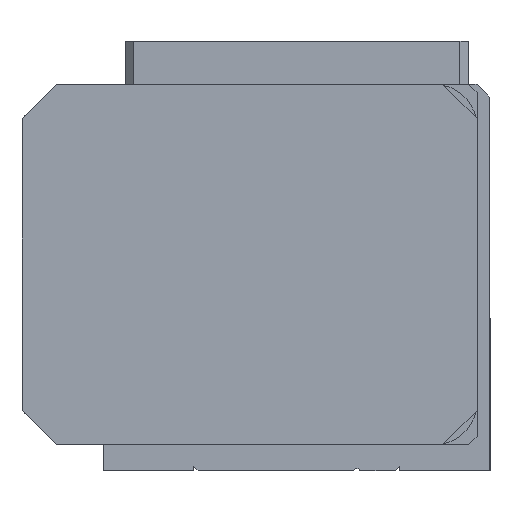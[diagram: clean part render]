
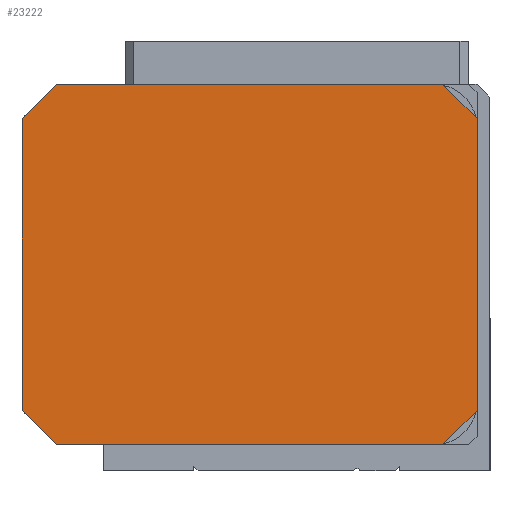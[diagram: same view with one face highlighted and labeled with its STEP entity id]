
A CAD part, left-side view. The second image highlights one B-rep face of the part: STEP entity #23222.
In plain terms, the highlighted planar face has unit normal (-1, 0, 0).
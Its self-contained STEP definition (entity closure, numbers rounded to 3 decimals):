
#22498=CARTESIAN_POINT('',(0.0,-21.,28.));
#22499=VERTEX_POINT('',#22498);
#22506=CARTESIAN_POINT('',(0.0,-21.0,-17.0));
#22507=VERTEX_POINT('',#22506);
#22508=CARTESIAN_POINT('',(0.0,-21.0,-17.0));
#22509=DIRECTION('',(0.0,0.0,1.0));
#22510=VECTOR('',#22509,45.);
#22511=LINE('',#22508,#22510);
#22512=EDGE_CURVE('',#22507,#22499,#22511,.T.);
#22899=CARTESIAN_POINT('',(0.0,21.0,28.));
#22900=VERTEX_POINT('',#22899);
#22907=CARTESIAN_POINT('',(0.0,17.0,32.));
#22908=VERTEX_POINT('',#22907);
#22909=CARTESIAN_POINT('',(0.0,17.0,32.));
#22910=DIRECTION('',(0.0,0.707,-0.707));
#22911=VECTOR('',#22910,5.657);
#22912=LINE('',#22909,#22911);
#22913=EDGE_CURVE('',#22908,#22900,#22912,.T.);
#22940=CARTESIAN_POINT('',(0.0,17.,-21.0));
#22941=VERTEX_POINT('',#22940);
#22948=CARTESIAN_POINT('',(0.0,21.0,-17.0));
#22949=VERTEX_POINT('',#22948);
#22950=CARTESIAN_POINT('',(0.0,21.0,-17.0));
#22951=DIRECTION('',(0.0,-0.707,-0.707));
#22952=VECTOR('',#22951,5.657);
#22953=LINE('',#22950,#22952);
#22954=EDGE_CURVE('',#22949,#22941,#22953,.T.);
#22996=CARTESIAN_POINT('',(0.0,-17.,-21.0));
#22997=VERTEX_POINT('',#22996);
#22998=CARTESIAN_POINT('',(0.0,-17.,-21.0));
#22999=DIRECTION('',(0.0,-0.707,0.707));
#23000=VECTOR('',#22999,5.657);
#23001=LINE('',#22998,#23000);
#23002=EDGE_CURVE('',#22997,#22507,#23001,.T.);
#23029=CARTESIAN_POINT('',(0.0,-17.,32.));
#23030=VERTEX_POINT('',#23029);
#23037=CARTESIAN_POINT('',(0.0,-21.,28.));
#23038=DIRECTION('',(0.0,0.707,0.707));
#23039=VECTOR('',#23038,5.657);
#23040=LINE('',#23037,#23039);
#23041=EDGE_CURVE('',#22499,#23030,#23040,.T.);
#23086=CARTESIAN_POINT('',(0.0,21.0,28.));
#23087=DIRECTION('',(0.0,0.0,-1.0));
#23088=VECTOR('',#23087,45.);
#23089=LINE('',#23086,#23088);
#23090=EDGE_CURVE('',#22900,#22949,#23089,.T.);
#23197=CARTESIAN_POINT('',(0.,0.0,32.));
#23198=DIRECTION('',(-1.0,0.0,0.0));
#23199=DIRECTION('',(0.0,0.0,1.0));
#23200=AXIS2_PLACEMENT_3D('',#23197,#23198,#23199);
#23201=PLANE('',#23200);
#23202=ORIENTED_EDGE('',*,*,#22913,.T.);
#23203=ORIENTED_EDGE('',*,*,#23090,.T.);
#23204=ORIENTED_EDGE('',*,*,#22954,.T.);
#23205=CARTESIAN_POINT('',(0.0,17.,-21.0));
#23206=DIRECTION('',(0.0,-1.0,0.0));
#23207=VECTOR('',#23206,34.);
#23208=LINE('',#23205,#23207);
#23209=EDGE_CURVE('',#22941,#22997,#23208,.T.);
#23210=ORIENTED_EDGE('',*,*,#23209,.T.);
#23211=ORIENTED_EDGE('',*,*,#23002,.T.);
#23212=ORIENTED_EDGE('',*,*,#22512,.T.);
#23213=ORIENTED_EDGE('',*,*,#23041,.T.);
#23214=CARTESIAN_POINT('',(0.0,-17.,32.));
#23215=DIRECTION('',(0.0,1.0,0.0));
#23216=VECTOR('',#23215,34.);
#23217=LINE('',#23214,#23216);
#23218=EDGE_CURVE('',#23030,#22908,#23217,.T.);
#23219=ORIENTED_EDGE('',*,*,#23218,.T.);
#23220=EDGE_LOOP('',(#23202,#23203,#23204,#23210,#23211,#23212,#23213,#23219));
#23221=FACE_OUTER_BOUND('',#23220,.T.);
#23222=ADVANCED_FACE('',(#23221),#23201,.T.);
